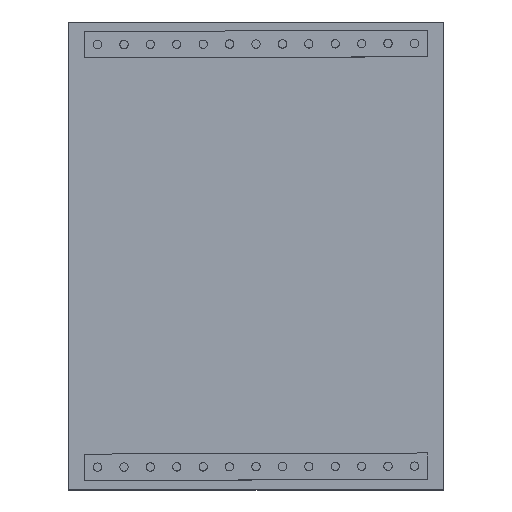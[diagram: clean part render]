
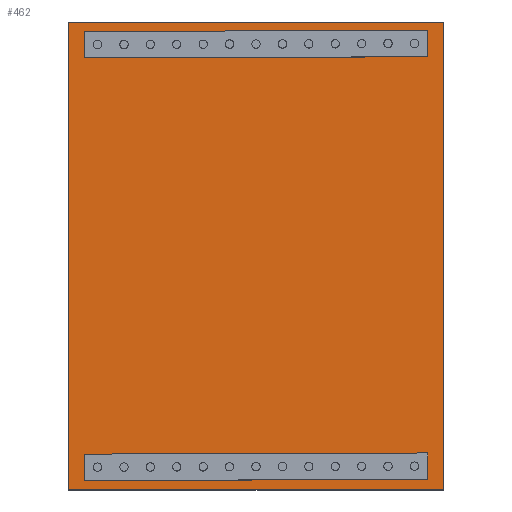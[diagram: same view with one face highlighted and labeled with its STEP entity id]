
A CAD part, top view. The second image highlights one B-rep face of the part: STEP entity #462.
In plain terms, the highlighted planar face has unit normal (0, 0, 1).
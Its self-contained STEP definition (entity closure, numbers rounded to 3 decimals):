
#97=CARTESIAN_POINT('',(15.24,20.32,1.6));
#98=DIRECTION('',(0.,0.,-1.));
#99=DIRECTION('',(0.,1.,0.));
#100=AXIS2_PLACEMENT_3D('',#97,#98,#99);
#102=CARTESIAN_POINT('',(15.24,20.32,1.6));
#103=DIRECTION('',(0.,0.,-1.));
#104=DIRECTION('',(0.,-1.,0.));
#105=AXIS2_PLACEMENT_3D('',#102,#103,#104);
#107=CARTESIAN_POINT('',(15.24,-20.32,1.6));
#108=DIRECTION('',(0.,0.,-1.));
#109=DIRECTION('',(0.,1.,0.));
#110=AXIS2_PLACEMENT_3D('',#107,#108,#109);
#112=CARTESIAN_POINT('',(15.24,-20.32,1.6));
#113=DIRECTION('',(0.,0.,-1.));
#114=DIRECTION('',(0.,-1.,0.));
#115=AXIS2_PLACEMENT_3D('',#112,#113,#114);
#117=CARTESIAN_POINT('',(-15.24,20.32,1.6));
#118=DIRECTION('',(0.,0.,-1.));
#119=DIRECTION('',(0.,1.,0.));
#120=AXIS2_PLACEMENT_3D('',#117,#118,#119);
#122=CARTESIAN_POINT('',(-15.24,20.32,1.6));
#123=DIRECTION('',(0.,0.,-1.));
#124=DIRECTION('',(0.,-1.,0.));
#125=AXIS2_PLACEMENT_3D('',#122,#123,#124);
#127=CARTESIAN_POINT('',(-15.24,-20.32,1.6));
#128=DIRECTION('',(0.,0.,-1.));
#129=DIRECTION('',(0.,1.,0.));
#130=AXIS2_PLACEMENT_3D('',#127,#128,#129);
#132=CARTESIAN_POINT('',(-15.24,-20.32,1.6));
#133=DIRECTION('',(0.,0.,-1.));
#134=DIRECTION('',(0.,-1.,0.));
#135=AXIS2_PLACEMENT_3D('',#132,#133,#134);
#137=DIRECTION('',(1.,0.,0.));
#138=VECTOR('',#137,36.);
#139=CARTESIAN_POINT('',(-18.,-22.5,1.6));
#140=LINE('',#139,#138);
#141=DIRECTION('',(0.,-1.,0.));
#142=VECTOR('',#141,45.);
#143=CARTESIAN_POINT('',(-18.,22.5,1.6));
#144=LINE('',#143,#142);
#145=DIRECTION('',(-1.,0.,0.));
#146=VECTOR('',#145,36.);
#147=CARTESIAN_POINT('',(18.,22.5,1.6));
#148=LINE('',#147,#146);
#149=DIRECTION('',(0.,1.,0.));
#150=VECTOR('',#149,45.);
#151=CARTESIAN_POINT('',(18.,-22.5,1.6));
#152=LINE('',#151,#150);
#273=CARTESIAN_POINT('',(15.24,20.82,1.6));
#274=CARTESIAN_POINT('',(15.24,19.82,1.6));
#275=VERTEX_POINT('',#273);
#276=VERTEX_POINT('',#274);
#277=CARTESIAN_POINT('',(15.24,-19.82,1.6));
#278=CARTESIAN_POINT('',(15.24,-20.82,1.6));
#279=VERTEX_POINT('',#277);
#280=VERTEX_POINT('',#278);
#281=CARTESIAN_POINT('',(-18.,-22.5,1.6));
#282=CARTESIAN_POINT('',(18.,-22.5,1.6));
#283=VERTEX_POINT('',#281);
#284=VERTEX_POINT('',#282);
#285=CARTESIAN_POINT('',(18.,22.5,1.6));
#286=VERTEX_POINT('',#285);
#287=CARTESIAN_POINT('',(-18.,22.5,1.6));
#288=VERTEX_POINT('',#287);
#297=CARTESIAN_POINT('',(-15.24,20.82,1.6));
#298=CARTESIAN_POINT('',(-15.24,19.82,1.6));
#299=VERTEX_POINT('',#297);
#300=VERTEX_POINT('',#298);
#301=CARTESIAN_POINT('',(-15.24,-19.82,1.6));
#302=CARTESIAN_POINT('',(-15.24,-20.82,1.6));
#303=VERTEX_POINT('',#301);
#304=VERTEX_POINT('',#302);
#425=CARTESIAN_POINT('',(0.,0.,1.6));
#426=DIRECTION('',(0.,0.,1.));
#427=DIRECTION('',(0.,1.,0.));
#428=AXIS2_PLACEMENT_3D('',#425,#426,#427);
#429=PLANE('',#428);
#431=ORIENTED_EDGE('',*,*,#430,.F.);
#433=ORIENTED_EDGE('',*,*,#432,.F.);
#435=ORIENTED_EDGE('',*,*,#434,.F.);
#437=ORIENTED_EDGE('',*,*,#436,.F.);
#438=EDGE_LOOP('',(#431,#433,#435,#437));
#439=FACE_OUTER_BOUND('',#438,.F.);
#440=ORIENTED_EDGE('',*,*,#405,.F.);
#441=ORIENTED_EDGE('',*,*,#419,.F.);
#442=EDGE_LOOP('',(#440,#441));
#443=FACE_BOUND('',#442,.F.);
#445=ORIENTED_EDGE('',*,*,#444,.F.);
#447=ORIENTED_EDGE('',*,*,#446,.F.);
#448=EDGE_LOOP('',(#445,#447));
#449=FACE_BOUND('',#448,.F.);
#451=ORIENTED_EDGE('',*,*,#450,.F.);
#453=ORIENTED_EDGE('',*,*,#452,.F.);
#454=EDGE_LOOP('',(#451,#453));
#455=FACE_BOUND('',#454,.F.);
#457=ORIENTED_EDGE('',*,*,#456,.F.);
#459=ORIENTED_EDGE('',*,*,#458,.F.);
#460=EDGE_LOOP('',(#457,#459));
#461=FACE_BOUND('',#460,.F.);
#462=ADVANCED_FACE('',(#439,#443,#449,#455,#461),#429,.T.);
#101=CIRCLE('',#100,0.5);
#106=CIRCLE('',#105,0.5);
#111=CIRCLE('',#110,0.5);
#116=CIRCLE('',#115,0.5);
#121=CIRCLE('',#120,0.5);
#126=CIRCLE('',#125,0.5);
#131=CIRCLE('',#130,0.5);
#136=CIRCLE('',#135,0.5);
#405=EDGE_CURVE('',#275,#276,#101,.T.);
#419=EDGE_CURVE('',#276,#275,#106,.T.);
#430=EDGE_CURVE('',#283,#284,#140,.T.);
#432=EDGE_CURVE('',#288,#283,#144,.T.);
#434=EDGE_CURVE('',#286,#288,#148,.T.);
#436=EDGE_CURVE('',#284,#286,#152,.T.);
#444=EDGE_CURVE('',#279,#280,#111,.T.);
#446=EDGE_CURVE('',#280,#279,#116,.T.);
#450=EDGE_CURVE('',#299,#300,#121,.T.);
#452=EDGE_CURVE('',#300,#299,#126,.T.);
#456=EDGE_CURVE('',#303,#304,#131,.T.);
#458=EDGE_CURVE('',#304,#303,#136,.T.);
